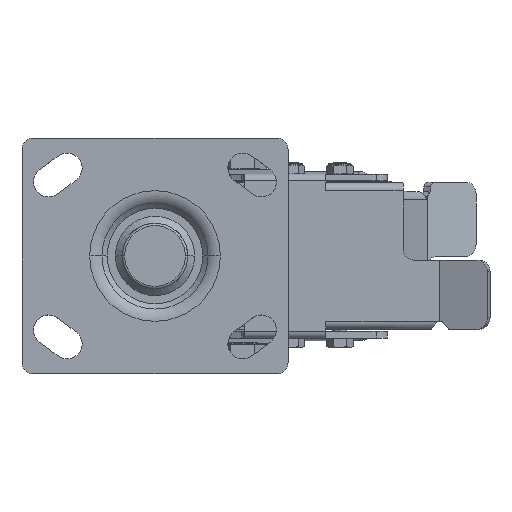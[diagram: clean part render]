
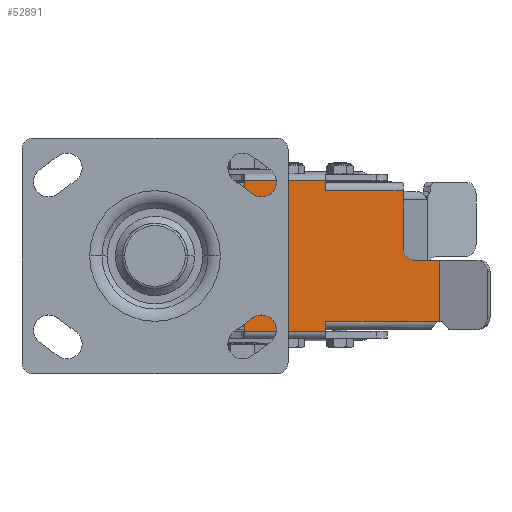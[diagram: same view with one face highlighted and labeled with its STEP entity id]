
A CAD part, top view. The second image highlights one B-rep face of the part: STEP entity #52891.
In plain terms, the highlighted planar face has unit normal (0.007, 0, 1).
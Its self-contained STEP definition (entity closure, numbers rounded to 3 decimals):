
#510 = DIRECTION ( 'NONE',  ( 0., 1., 0. ) ) ;
#1172 = VECTOR ( 'NONE', #39533, 1000. ) ;
#1417 = VECTOR ( 'NONE', #71836, 1000. ) ;
#1990 = EDGE_CURVE ( 'NONE', #64764, #55580, #70631, .T. ) ;
#2010 = DIRECTION ( 'NONE',  ( -1., 0., 0.007 ) ) ;
#2621 = VECTOR ( 'NONE', #39211, 1000. ) ;
#3037 = EDGE_CURVE ( 'NONE', #6485, #72579, #30482, .T. ) ;
#3596 = EDGE_CURVE ( 'NONE', #37690, #64764, #41744, .T. ) ;
#3758 = ORIENTED_EDGE ( 'NONE', *, *, #52745, .T. ) ;
#4195 = DIRECTION ( 'NONE',  ( 0., -1., 0. ) ) ;
#5857 = EDGE_CURVE ( 'NONE', #23466, #6485, #74864, .T. ) ;
#6485 = VERTEX_POINT ( 'NONE', #56973 ) ;
#7390 = DIRECTION ( 'NONE',  ( -0.007, 0., -1. ) ) ;
#9020 = CARTESIAN_POINT ( 'NONE',  ( 123.168, -28.25, -32.001 ) ) ;
#10106 = VERTEX_POINT ( 'NONE', #9020 ) ;
#11160 = VECTOR ( 'NONE', #65581, 1000. ) ;
#11518 = ORIENTED_EDGE ( 'NONE', *, *, #26635, .T. ) ;
#16142 = ORIENTED_EDGE ( 'NONE', *, *, #5857, .T. ) ;
#17152 = VECTOR ( 'NONE', #54714, 1000. ) ;
#18897 = CARTESIAN_POINT ( 'NONE',  ( 38.586, -32.5, -31.371 ) ) ;
#19056 = CARTESIAN_POINT ( 'NONE',  ( 123.168, -1.75, -32.001 ) ) ;
#21071 = LINE ( 'NONE', #27570, #23429 ) ;
#21728 = VECTOR ( 'NONE', #42512, 1000. ) ;
#22190 = CARTESIAN_POINT ( 'NONE',  ( 73.785, 32.5, -31.633 ) ) ;
#22514 = ORIENTED_EDGE ( 'NONE', *, *, #3037, .T. ) ;
#23429 = VECTOR ( 'NONE', #4195, 1000. ) ;
#23466 = VERTEX_POINT ( 'NONE', #26030 ) ;
#24133 = VERTEX_POINT ( 'NONE', #71511 ) ;
#24428 = CARTESIAN_POINT ( 'NONE',  ( 73.785, 32.5, -31.633 ) ) ;
#25414 = PLANE ( 'NONE',  #70019 ) ;
#26030 = CARTESIAN_POINT ( 'NONE',  ( 73.785, 28.25, -31.633 ) ) ;
#26207 = ORIENTED_EDGE ( 'NONE', *, *, #59562, .T. ) ;
#26600 = VECTOR ( 'NONE', #45681, 1000. ) ;
#26635 = EDGE_CURVE ( 'NONE', #10106, #47147, #71727, .T. ) ;
#27570 = CARTESIAN_POINT ( 'NONE',  ( 107.233, -1.75, -31.882 ) ) ;
#27817 = CARTESIAN_POINT ( 'NONE',  ( 122.634, -28.25, -31.997 ) ) ;
#29522 = VECTOR ( 'NONE', #57456, 1000. ) ;
#30482 = LINE ( 'NONE', #60093, #17152 ) ;
#30920 = EDGE_CURVE ( 'NONE', #24133, #23466, #75590, .T. ) ;
#31025 = CARTESIAN_POINT ( 'NONE',  ( 123.168, -1.75, -32.001 ) ) ;
#31289 = CARTESIAN_POINT ( 'NONE',  ( 38.586, 32.5, -31.371 ) ) ;
#31816 = CARTESIAN_POINT ( 'NONE',  ( 73.785, -28.25, -31.633 ) ) ;
#35562 = CARTESIAN_POINT ( 'NONE',  ( 107.233, 3.25, -31.882 ) ) ;
#36917 = EDGE_CURVE ( 'NONE', #55580, #10106, #45556, .T. ) ;
#37690 = VERTEX_POINT ( 'NONE', #69176 ) ;
#38467 = CARTESIAN_POINT ( 'NONE',  ( 73.785, 32.5, -31.633 ) ) ;
#39211 = DIRECTION ( 'NONE',  ( 1., 0., -0.007 ) ) ;
#39343 = AXIS2_PLACEMENT_3D ( 'NONE', #71562, #7390, #510 ) ;
#39444 = LINE ( 'NONE', #56378, #43258 ) ;
#39533 = DIRECTION ( 'NONE',  ( 1., 0., -0.007 ) ) ;
#41744 = LINE ( 'NONE', #24428, #61462 ) ;
#42512 = DIRECTION ( 'NONE',  ( 0., 1., 0. ) ) ;
#42996 = ORIENTED_EDGE ( 'NONE', *, *, #1990, .T. ) ;
#43016 = CARTESIAN_POINT ( 'NONE',  ( 158.232, -1.75, -32.262 ) ) ;
#43258 = VECTOR ( 'NONE', #44474, 1000. ) ;
#44474 = DIRECTION ( 'NONE',  ( 0., 1., 0. ) ) ;
#45556 = LINE ( 'NONE', #27817, #29522 ) ;
#45681 = DIRECTION ( 'NONE',  ( 0., 1., 0. ) ) ;
#47147 = VERTEX_POINT ( 'NONE', #31025 ) ;
#47623 = VERTEX_POINT ( 'NONE', #35562 ) ;
#47898 = ORIENTED_EDGE ( 'NONE', *, *, #63249, .F. ) ;
#47916 = DIRECTION ( 'NONE',  ( 0., 1., 0. ) ) ;
#49276 = FACE_OUTER_BOUND ( 'NONE', #55889, .T. ) ;
#51536 = LINE ( 'NONE', #57299, #2621 ) ;
#52668 = VERTEX_POINT ( 'NONE', #18897 ) ;
#52745 = EDGE_CURVE ( 'NONE', #60022, #47623, #55333, .T. ) ;
#52891 = ADVANCED_FACE ( 'NONE', ( #49276 ), #25414, .T. ) ;
#53080 = EDGE_CURVE ( 'NONE', #47147, #60022, #54947, .T. ) ;
#53179 = EDGE_CURVE ( 'NONE', #24133, #47623, #21071, .T. ) ;
#54714 = DIRECTION ( 'NONE',  ( -1., 0., 0.007 ) ) ;
#54947 = LINE ( 'NONE', #43016, #1417 ) ;
#55333 = CIRCLE ( 'NONE', #39343, 5. ) ;
#55580 = VERTEX_POINT ( 'NONE', #65600 ) ;
#55889 = EDGE_LOOP ( 'NONE', ( #61312, #42996, #58071, #11518, #59067, #3758, #64178, #57124, #16142, #22514, #47898, #26207 ) ) ;
#56378 = CARTESIAN_POINT ( 'NONE',  ( 38.586, 32.5, -31.371 ) ) ;
#56973 = CARTESIAN_POINT ( 'NONE',  ( 73.785, 32.5, -31.633 ) ) ;
#57124 = ORIENTED_EDGE ( 'NONE', *, *, #30920, .T. ) ;
#57299 = CARTESIAN_POINT ( 'NONE',  ( 38.586, -32.5, -31.371 ) ) ;
#57456 = DIRECTION ( 'NONE',  ( 1., 0., -0.007 ) ) ;
#58071 = ORIENTED_EDGE ( 'NONE', *, *, #36917, .T. ) ;
#59067 = ORIENTED_EDGE ( 'NONE', *, *, #53080, .T. ) ;
#59449 = CARTESIAN_POINT ( 'NONE',  ( 73.785, 28.25, -31.633 ) ) ;
#59562 = EDGE_CURVE ( 'NONE', #52668, #37690, #51536, .T. ) ;
#60022 = VERTEX_POINT ( 'NONE', #70241 ) ;
#60093 = CARTESIAN_POINT ( 'NONE',  ( 73.785, 32.5, -31.633 ) ) ;
#61312 = ORIENTED_EDGE ( 'NONE', *, *, #3596, .T. ) ;
#61462 = VECTOR ( 'NONE', #47916, 1000. ) ;
#63249 = EDGE_CURVE ( 'NONE', #52668, #72579, #39444, .T. ) ;
#64178 = ORIENTED_EDGE ( 'NONE', *, *, #53179, .F. ) ;
#64764 = VERTEX_POINT ( 'NONE', #31816 ) ;
#65581 = DIRECTION ( 'NONE',  ( -1., 0., 0.007 ) ) ;
#65600 = CARTESIAN_POINT ( 'NONE',  ( 122.634, -28.25, -31.997 ) ) ;
#69133 = CARTESIAN_POINT ( 'NONE',  ( 123.784, -28.25, -32.006 ) ) ;
#69176 = CARTESIAN_POINT ( 'NONE',  ( 73.785, -32.5, -31.633 ) ) ;
#70019 = AXIS2_PLACEMENT_3D ( 'NONE', #38467, #72690, #2010 ) ;
#70241 = CARTESIAN_POINT ( 'NONE',  ( 112.233, -1.75, -31.92 ) ) ;
#70631 = LINE ( 'NONE', #69133, #1172 ) ;
#71511 = CARTESIAN_POINT ( 'NONE',  ( 107.233, 28.25, -31.882 ) ) ;
#71562 = CARTESIAN_POINT ( 'NONE',  ( 112.233, 3.25, -31.92 ) ) ;
#71727 = LINE ( 'NONE', #19056, #21728 ) ;
#71836 = DIRECTION ( 'NONE',  ( -1., 0., 0.007 ) ) ;
#72579 = VERTEX_POINT ( 'NONE', #31289 ) ;
#72690 = DIRECTION ( 'NONE',  ( 0.007, 0., 1. ) ) ;
#74864 = LINE ( 'NONE', #22190, #26600 ) ;
#75590 = LINE ( 'NONE', #59449, #11160 ) ;
